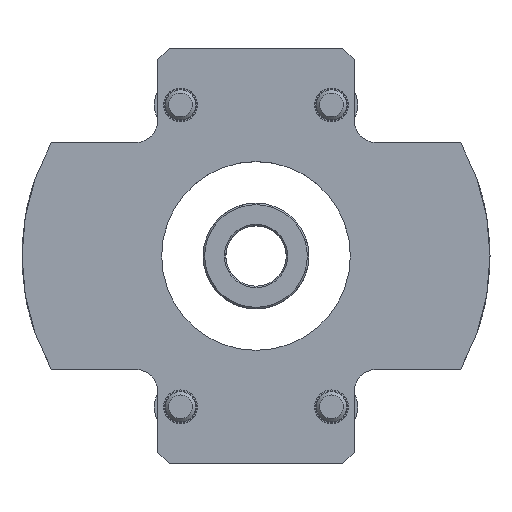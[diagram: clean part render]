
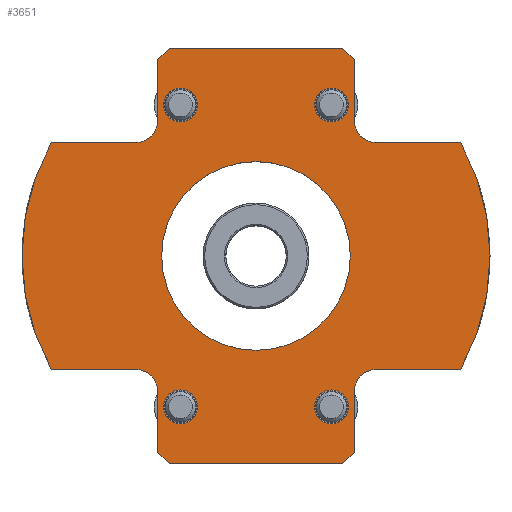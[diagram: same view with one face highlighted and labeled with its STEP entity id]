
A CAD part, top view. The second image highlights one B-rep face of the part: STEP entity #3651.
In plain terms, the highlighted planar face has unit normal (0, 0, 1) as drawn and (0, 0, -1) by its records, which use the part's own axes.
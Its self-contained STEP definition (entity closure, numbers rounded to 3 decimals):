
#187=FACE_BOUND('',#696,.T.);
#188=FACE_BOUND('',#697,.T.);
#189=FACE_BOUND('',#698,.T.);
#190=FACE_BOUND('',#699,.T.);
#191=FACE_BOUND('',#700,.T.);
#345=PLANE('',#4126);
#466=FACE_OUTER_BOUND('',#695,.T.);
#695=EDGE_LOOP('',(#2974,#2975,#2976,#2977,#2978,#2979,#2980,#2981,#2982,
#2983,#2984,#2985,#2986,#2987,#2988,#2989,#2990,#2991,#2992,#2993));
#696=EDGE_LOOP('',(#2994));
#697=EDGE_LOOP('',(#2995));
#698=EDGE_LOOP('',(#2996));
#699=EDGE_LOOP('',(#2997));
#700=EDGE_LOOP('',(#2998,#2999));
#862=LINE('',#5691,#1110);
#875=LINE('',#5731,#1123);
#887=LINE('',#5763,#1135);
#889=LINE('',#5766,#1137);
#918=LINE('',#5832,#1166);
#921=LINE('',#5837,#1169);
#923=LINE('',#5841,#1171);
#924=LINE('',#5843,#1172);
#928=LINE('',#5851,#1176);
#930=LINE('',#5854,#1178);
#973=LINE('',#5980,#1221);
#974=LINE('',#5984,#1222);
#981=LINE('',#6008,#1229);
#982=LINE('',#6012,#1230);
#1110=VECTOR('',#4595,10.);
#1123=VECTOR('',#4626,10.);
#1135=VECTOR('',#4648,10.);
#1137=VECTOR('',#4652,10.);
#1166=VECTOR('',#4697,10.);
#1169=VECTOR('',#4702,10.);
#1171=VECTOR('',#4706,10.);
#1172=VECTOR('',#4709,10.);
#1176=VECTOR('',#4715,10.);
#1178=VECTOR('',#4719,10.);
#1221=VECTOR('',#4858,10.);
#1222=VECTOR('',#4865,10.);
#1229=VECTOR('',#4892,10.);
#1230=VECTOR('',#4899,10.);
#1360=CIRCLE('',#4020,3.);
#1364=CIRCLE('',#4026,3.);
#1366=CIRCLE('',#4029,3.);
#1370=CIRCLE('',#4035,3.);
#1396=CIRCLE('',#4100,31.);
#1402=CIRCLE('',#4113,31.);
#1403=CIRCLE('',#4116,2.25);
#1404=CIRCLE('',#4118,2.25);
#1405=CIRCLE('',#4120,2.25);
#1406=CIRCLE('',#4122,2.25);
#1407=CIRCLE('',#4124,12.5);
#1408=CIRCLE('',#4125,12.5);
#1584=VERTEX_POINT('',#5680);
#1585=VERTEX_POINT('',#5682);
#1588=VERTEX_POINT('',#5690);
#1598=VERTEX_POINT('',#5711);
#1599=VERTEX_POINT('',#5713);
#1602=VERTEX_POINT('',#5720);
#1603=VERTEX_POINT('',#5722);
#1606=VERTEX_POINT('',#5730);
#1616=VERTEX_POINT('',#5751);
#1617=VERTEX_POINT('',#5753);
#1620=VERTEX_POINT('',#5760);
#1621=VERTEX_POINT('',#5762);
#1649=VERTEX_POINT('',#5829);
#1650=VERTEX_POINT('',#5831);
#1651=VERTEX_POINT('',#5835);
#1652=VERTEX_POINT('',#5839);
#1654=VERTEX_POINT('',#5848);
#1655=VERTEX_POINT('',#5850);
#1690=VERTEX_POINT('',#5978);
#1697=VERTEX_POINT('',#6006);
#1698=VERTEX_POINT('',#6014);
#1699=VERTEX_POINT('',#6018);
#1700=VERTEX_POINT('',#6022);
#1701=VERTEX_POINT('',#6026);
#1702=VERTEX_POINT('',#6030);
#1703=VERTEX_POINT('',#6031);
#1987=EDGE_CURVE('',#1584,#1585,#1360,.T.);
#1991=EDGE_CURVE('',#1585,#1588,#862,.T.);
#2002=EDGE_CURVE('',#1598,#1599,#1364,.T.);
#2006=EDGE_CURVE('',#1602,#1603,#1366,.T.);
#2010=EDGE_CURVE('',#1606,#1603,#875,.T.);
#2021=EDGE_CURVE('',#1616,#1617,#1370,.T.);
#2025=EDGE_CURVE('',#1620,#1621,#887,.T.);
#2027=EDGE_CURVE('',#1617,#1620,#889,.T.);
#2062=EDGE_CURVE('',#1649,#1650,#918,.T.);
#2065=EDGE_CURVE('',#1651,#1649,#921,.T.);
#2067=EDGE_CURVE('',#1652,#1651,#923,.T.);
#2068=EDGE_CURVE('',#1599,#1652,#924,.T.);
#2072=EDGE_CURVE('',#1654,#1655,#928,.T.);
#2074=EDGE_CURVE('',#1621,#1654,#930,.T.);
#2136=EDGE_CURVE('',#1690,#1598,#973,.T.);
#2137=EDGE_CURVE('',#1588,#1690,#1396,.T.);
#2138=EDGE_CURVE('',#1655,#1584,#974,.T.);
#2150=EDGE_CURVE('',#1616,#1697,#981,.T.);
#2151=EDGE_CURVE('',#1697,#1606,#1402,.T.);
#2152=EDGE_CURVE('',#1650,#1602,#982,.T.);
#2154=EDGE_CURVE('',#1698,#1698,#1403,.T.);
#2156=EDGE_CURVE('',#1699,#1699,#1404,.T.);
#2158=EDGE_CURVE('',#1700,#1700,#1405,.T.);
#2160=EDGE_CURVE('',#1701,#1701,#1406,.T.);
#2161=EDGE_CURVE('',#1702,#1703,#1407,.T.);
#2162=EDGE_CURVE('',#1703,#1702,#1408,.T.);
#2974=ORIENTED_EDGE('',*,*,#2025,.F.);
#2975=ORIENTED_EDGE('',*,*,#2027,.F.);
#2976=ORIENTED_EDGE('',*,*,#2021,.F.);
#2977=ORIENTED_EDGE('',*,*,#2150,.T.);
#2978=ORIENTED_EDGE('',*,*,#2151,.T.);
#2979=ORIENTED_EDGE('',*,*,#2010,.T.);
#2980=ORIENTED_EDGE('',*,*,#2006,.F.);
#2981=ORIENTED_EDGE('',*,*,#2152,.F.);
#2982=ORIENTED_EDGE('',*,*,#2062,.F.);
#2983=ORIENTED_EDGE('',*,*,#2065,.F.);
#2984=ORIENTED_EDGE('',*,*,#2067,.F.);
#2985=ORIENTED_EDGE('',*,*,#2068,.F.);
#2986=ORIENTED_EDGE('',*,*,#2002,.F.);
#2987=ORIENTED_EDGE('',*,*,#2136,.F.);
#2988=ORIENTED_EDGE('',*,*,#2137,.F.);
#2989=ORIENTED_EDGE('',*,*,#1991,.F.);
#2990=ORIENTED_EDGE('',*,*,#1987,.F.);
#2991=ORIENTED_EDGE('',*,*,#2138,.F.);
#2992=ORIENTED_EDGE('',*,*,#2072,.F.);
#2993=ORIENTED_EDGE('',*,*,#2074,.F.);
#2994=ORIENTED_EDGE('',*,*,#2154,.T.);
#2995=ORIENTED_EDGE('',*,*,#2156,.T.);
#2996=ORIENTED_EDGE('',*,*,#2158,.T.);
#2997=ORIENTED_EDGE('',*,*,#2160,.T.);
#2998=ORIENTED_EDGE('',*,*,#2161,.T.);
#2999=ORIENTED_EDGE('',*,*,#2162,.T.);
#3651=ADVANCED_FACE('',(#466,#187,#188,#189,#190,#191),#345,.F.);
#4020=AXIS2_PLACEMENT_3D('',#5683,#4587,#4588);
#4026=AXIS2_PLACEMENT_3D('',#5714,#4610,#4611);
#4029=AXIS2_PLACEMENT_3D('',#5723,#4618,#4619);
#4035=AXIS2_PLACEMENT_3D('',#5754,#4641,#4642);
#4100=AXIS2_PLACEMENT_3D('',#5982,#4861,#4862);
#4113=AXIS2_PLACEMENT_3D('',#6010,#4895,#4896);
#4116=AXIS2_PLACEMENT_3D('',#6016,#4903,#4904);
#4118=AXIS2_PLACEMENT_3D('',#6020,#4908,#4909);
#4120=AXIS2_PLACEMENT_3D('',#6024,#4913,#4914);
#4122=AXIS2_PLACEMENT_3D('',#6028,#4918,#4919);
#4124=AXIS2_PLACEMENT_3D('',#6032,#4922,#4923);
#4125=AXIS2_PLACEMENT_3D('',#6033,#4924,#4925);
#4126=AXIS2_PLACEMENT_3D('',#6035,#4927,#4928);
#4587=DIRECTION('center_axis',(0.,0.,-1.));
#4588=DIRECTION('ref_axis',(0.707,0.707,0.));
#4595=DIRECTION('',(0.,-1.,0.));
#4610=DIRECTION('center_axis',(0.,0.,-1.));
#4611=DIRECTION('ref_axis',(-0.707,0.707,0.));
#4618=DIRECTION('center_axis',(0.,0.,-1.));
#4619=DIRECTION('ref_axis',(-0.707,-0.707,0.));
#4626=DIRECTION('',(0.,-1.,0.));
#4641=DIRECTION('center_axis',(0.,0.,-1.));
#4642=DIRECTION('ref_axis',(0.707,-0.707,0.));
#4648=DIRECTION('',(-0.707,-0.707,0.));
#4652=DIRECTION('',(-1.,0.,0.));
#4697=DIRECTION('',(-0.707,0.707,0.));
#4702=DIRECTION('',(0.,1.,0.));
#4706=DIRECTION('',(0.707,0.707,0.));
#4709=DIRECTION('',(1.,0.,0.));
#4715=DIRECTION('',(0.707,-0.707,0.));
#4719=DIRECTION('',(0.,-1.,0.));
#4858=DIRECTION('',(0.,1.,0.));
#4861=DIRECTION('center_axis',(0.,0.,1.));
#4862=DIRECTION('ref_axis',(0.484,-0.875,0.));
#4865=DIRECTION('',(1.,0.,0.));
#4892=DIRECTION('',(0.,1.,0.));
#4895=DIRECTION('center_axis',(0.,0.,-1.));
#4896=DIRECTION('ref_axis',(0.484,0.875,0.));
#4899=DIRECTION('',(-1.,0.,0.));
#4903=DIRECTION('center_axis',(0.,0.,1.));
#4904=DIRECTION('ref_axis',(1.,0.,0.));
#4908=DIRECTION('center_axis',(0.,0.,1.));
#4909=DIRECTION('ref_axis',(1.,0.,0.));
#4913=DIRECTION('center_axis',(0.,0.,1.));
#4914=DIRECTION('ref_axis',(1.,0.,0.));
#4918=DIRECTION('center_axis',(0.,0.,1.));
#4919=DIRECTION('ref_axis',(1.,0.,0.));
#4922=DIRECTION('center_axis',(0.,0.,1.));
#4923=DIRECTION('ref_axis',(1.,0.,0.));
#4924=DIRECTION('center_axis',(0.,0.,1.));
#4925=DIRECTION('ref_axis',(1.,0.,0.));
#4927=DIRECTION('center_axis',(0.,0.,1.));
#4928=DIRECTION('ref_axis',(1.,0.,0.));
#5680=CARTESIAN_POINT('',(-18.,-13.,0.));
#5682=CARTESIAN_POINT('',(-15.,-16.,0.));
#5683=CARTESIAN_POINT('Origin',(-18.,-16.,0.));
#5690=CARTESIAN_POINT('',(-15.,-27.129,0.));
#5691=CARTESIAN_POINT('',(-15.,-17.5,0.));
#5711=CARTESIAN_POINT('',(15.,-16.,0.));
#5713=CARTESIAN_POINT('',(18.,-13.,0.));
#5714=CARTESIAN_POINT('Origin',(18.,-16.,0.));
#5720=CARTESIAN_POINT('',(18.,13.,0.));
#5722=CARTESIAN_POINT('',(15.,16.,0.));
#5723=CARTESIAN_POINT('Origin',(18.,16.,0.));
#5730=CARTESIAN_POINT('',(15.,27.129,0.));
#5731=CARTESIAN_POINT('',(15.,24.565,0.));
#5751=CARTESIAN_POINT('',(-15.,16.,0.));
#5753=CARTESIAN_POINT('',(-18.,13.,0.));
#5754=CARTESIAN_POINT('Origin',(-18.,16.,0.));
#5760=CARTESIAN_POINT('',(-26.,13.,0.));
#5762=CARTESIAN_POINT('',(-27.5,11.5,0.));
#5763=CARTESIAN_POINT('',(-23.125,15.875,0.));
#5766=CARTESIAN_POINT('',(27.5,13.,0.));
#5829=CARTESIAN_POINT('',(27.5,11.5,0.));
#5831=CARTESIAN_POINT('',(26.,13.,0.));
#5832=CARTESIAN_POINT('',(23.125,15.875,0.));
#5835=CARTESIAN_POINT('',(27.5,-11.5,0.));
#5837=CARTESIAN_POINT('',(27.5,-13.,0.));
#5839=CARTESIAN_POINT('',(26.,-13.,0.));
#5841=CARTESIAN_POINT('',(23.125,-15.875,0.));
#5843=CARTESIAN_POINT('',(-27.5,-13.,0.));
#5848=CARTESIAN_POINT('',(-27.5,-11.5,0.));
#5850=CARTESIAN_POINT('',(-26.,-13.,0.));
#5851=CARTESIAN_POINT('',(-23.125,-15.875,0.));
#5854=CARTESIAN_POINT('',(-27.5,13.,0.));
#5978=CARTESIAN_POINT('',(15.,-27.129,0.));
#5980=CARTESIAN_POINT('',(15.,-24.565,0.));
#5982=CARTESIAN_POINT('Origin',(0.,0.,0.));
#5984=CARTESIAN_POINT('',(-27.5,-13.,0.));
#6006=CARTESIAN_POINT('',(-15.,27.129,0.));
#6008=CARTESIAN_POINT('',(-15.,17.5,0.));
#6010=CARTESIAN_POINT('Origin',(0.,0.,0.));
#6012=CARTESIAN_POINT('',(27.5,13.,0.));
#6014=CARTESIAN_POINT('',(17.75,10.,0.));
#6016=CARTESIAN_POINT('Origin',(20.,10.,0.));
#6018=CARTESIAN_POINT('',(-22.25,-10.,0.));
#6020=CARTESIAN_POINT('Origin',(-20.,-10.,0.));
#6022=CARTESIAN_POINT('',(-22.25,10.,0.));
#6024=CARTESIAN_POINT('Origin',(-20.,10.,0.));
#6026=CARTESIAN_POINT('',(17.75,-10.,0.));
#6028=CARTESIAN_POINT('Origin',(20.,-10.,0.));
#6030=CARTESIAN_POINT('',(12.5,0.,0.));
#6031=CARTESIAN_POINT('',(-12.5,0.,0.));
#6032=CARTESIAN_POINT('Origin',(0.,0.,0.));
#6033=CARTESIAN_POINT('Origin',(0.,0.,0.));
#6035=CARTESIAN_POINT('Origin',(0.,0.,
0.));
